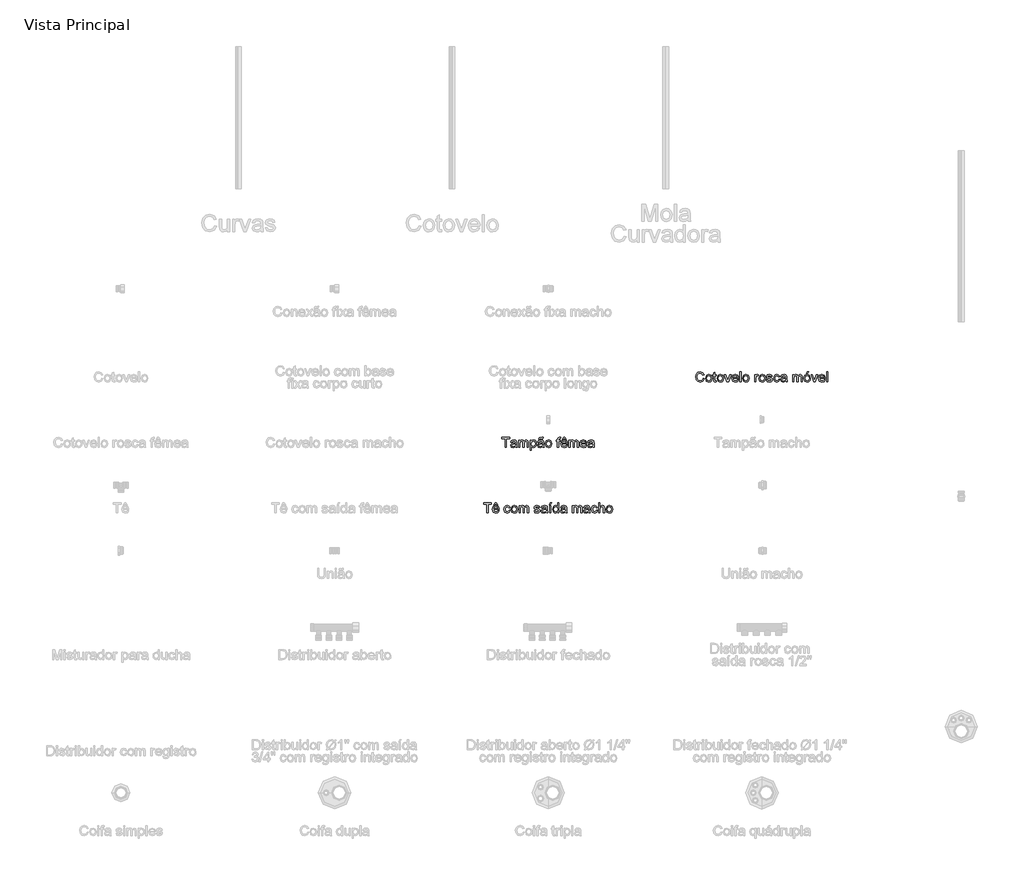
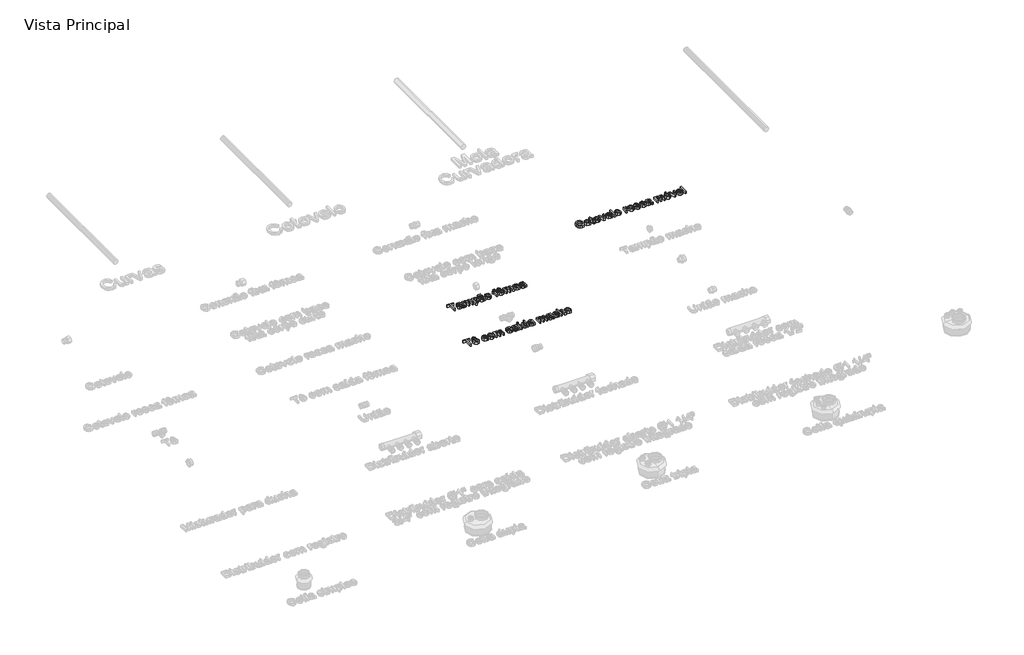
# One storey, part 11 of 12: 3 proxies.
"""IFC4 building model written with IfcOpenShell, lengths in millimetres."""

from ifc_helpers import new_model, si_unit, origin, origin_with_axes, place, context, project, spatial, polyline, outline, extrude, element, save

model = new_model("IFC4")

# Units and contexts
model_context = context("Model", 3, world=origin())
ifc_project = project(units=[si_unit("LENGTHUNIT", "METRE", prefix="MILLI")], contexts=[model_context])

# Site, building, storey
site = spatial("IfcSite", under=ifc_project)
building = spatial("IfcBuilding", under=site)
storey = spatial("IfcBuildingStorey", under=building, Name="Vista Principal", Elevation=0.0)

# Proxies
placement = place(None, origin())
element("IfcBuildingElementProxy", 1, Name="Legenda", ObjectType="Legenda", at=placement, inside=storey, context=model_context, shape_type="SweptSolid", body=[
    extrude(outline(polyline([(962.8484805, -244.518665), (967.243444, -245.6517416), (962.0330087, -254.514632), (952.8310537, -257.5662131), (943.6848942, -255.2571405), (938.3199484, -248.5702721), (936.478699, -239.1708871), (938.560298, -229.6169917), (944.4789062, -223.4236983), (952.9254768, -221.3077637), (961.7282798, -224.046032), (966.6940736, -231.7543861), (962.29911, -232.8016235), (958.6938665, -227.3980501), (952.7537985, -225.7027273), (945.878084, -227.5826042), (941.9938633, -232.6299452), (940.8736626, -239.1623032), (942.1998772, -246.7333146), (946.3287395, -251.5703497), (952.3932742, -253.1712496), (959.1187702, -250.9909356), (962.8484805, -244.518665)])), origin_with_axes(), (0.0, 0.0, 1.0), 10.0),
    extrude(outline(polyline([(971.6384076, -244.1066372), (975.4410812, -233.5055044), (983.1837709, -230.6470613), (991.4887069, -234.1278381), (994.7119663, -243.7461128), (993.2870367, -251.5660578), (989.1367147, -255.9910651), (983.1837709, -257.5662131), (974.8273314, -254.0983122), (971.6384076, -244.1066372)]), holes=[polyline([(976.0333712, -244.0980533), (978.0677586, -250.9093884), (983.1837709, -253.1712496), (988.2826153, -250.8965126), (990.3170028, -243.9607107), (988.2697395, -237.303886), (983.1837709, -235.0420248), (978.0677586, -237.2953021), (976.0333712, -244.0980533)])]), origin_with_axes(), (0.0, 0.0, 1.0), 10.0),
    extrude(outline(polyline([(1008.9955979, -253.3515117), (1009.5449684, -257.1456014), (1006.2573296, -257.5662131), (1002.5748308, -256.8365805), (1000.7378734, -254.9223679), (1000.2056708, -249.9351143), (1000.2056708, -235.5913953), (996.9094481, -235.5913953), (996.9094481, -231.1964317), (1000.2056708, -231.1964317), (1000.2056708, -224.9215911), (1004.6006344, -222.3378333), (1004.6006344, -231.1964317), (1008.9955979, -231.1964317), (1008.9955979, -235.5913953), (1004.6006344, -235.5913953), (1004.6006344, -249.8063556), (1004.8324, -252.0725087), (1008.9955979, -253.3515117)])), origin_with_axes(), (0.0, 0.0, 1.0), 10.0),
    extrude(outline(polyline([(1012.2918206, -244.1066372), (1016.0944942, -233.5055044), (1023.8371839, -230.6470613), (1032.1421199, -234.1278381), (1035.3653794, -243.7461128), (1033.9404498, -251.5660578), (1029.7901277, -255.9910651), (1023.8371839, -257.5662131), (1015.4807444, -254.0983122), (1012.2918206, -244.1066372)]), holes=[polyline([(1016.6867842, -244.0980533), (1018.7211716, -250.9093884), (1023.8371839, -253.1712496), (1028.9360283, -250.8965126), (1030.9704158, -243.9607107), (1028.9231525, -237.303886), (1023.8371839, -235.0420248), (1018.7211716, -237.2953021), (1016.6867842, -244.0980533)])]), origin_with_axes(), (0.0, 0.0, 1.0), 10.0),
    extrude(outline(polyline([(1046.6446413, -257.0168427), (1037.5628611, -231.1964317), (1042.2153421, -231.1964317), (1047.7176305, -246.6646433), (1049.3743257, -251.8664947), (1050.9966853, -246.9564964), (1056.5333094, -231.1964317), (1061.1857903, -231.1964317), (1052.215601, -257.0168427), (1046.6446413, -257.0168427)])), origin_with_axes(), (0.0, 0.0, 1.0), 10.0),
    extrude(outline(polyline([(1083.1091047, -249.3256564), (1087.4182291, -249.8750269), (1083.3880819, -255.5489935), (1075.8814498, -257.5662131), (1066.75675, -254.0854363), (1063.3832721, -244.321235), (1066.7910857, -234.235137), (1075.6325163, -230.6470613), (1084.2207214, -234.2265531), (1087.5555717, -244.2954833), (1067.7782357, -245.4800633), (1070.3061981, -251.1883656), (1075.9672889, -253.1712496), (1080.2764133, -252.2527708), (1083.1091047, -249.3256564)]), holes=[polyline([(1067.7782357, -241.0850997), (1083.1606082, -241.0850997), (1081.400906, -237.102164), (1075.6153484, -235.0420248), (1070.2031912, -236.6858442), (1067.7782357, -241.0850997)])]), origin_with_axes(), (0.0, 0.0, 1.0), 10.0),
    extrude(outline(polyline([(1091.9505353, -257.0168427), (1091.9505353, -221.8571341), (1096.3454989, -221.8571341), (1096.3454989, -257.0168427), (1091.9505353, -257.0168427)])), origin_with_axes(), (0.0, 0.0, 1.0), 10.0),
    extrude(outline(polyline([(1101.8392033, -244.1066372), (1105.6418769, -233.5055044), (1113.3845666, -230.6470613), (1121.6895027, -234.1278381), (1124.9127621, -243.7461128), (1123.4878325, -251.5660578), (1119.3375104, -255.9910651), (1113.3845666, -257.5662131), (1105.0281271, -254.0983122), (1101.8392033, -244.1066372)]), holes=[polyline([(1106.2341669, -244.0980533), (1108.2685543, -250.9093884), (1113.3845666, -253.1712496), (1118.4834111, -250.8965126), (1120.5177985, -243.9607107), (1118.4705352, -237.303886), (1113.3845666, -235.0420248), (1108.2685543, -237.2953021), (1106.2341669, -244.0980533)])]), origin_with_axes(), (0.0, 0.0, 1.0), 10.0),
    extrude(outline(polyline([(1143.5913572, -257.0168427), (1143.5913572, -231.1964317), (1147.4369504, -231.1964317), (1147.4369504, -235.0162731), (1150.1666348, -231.4968687), (1152.913487, -230.6470613), (1157.3256184, -232.0033196), (1155.8577692, -235.9433357), (1152.7675605, -235.0420248), (1150.2825176, -235.9090001), (1148.6987856, -238.3124958), (1147.9863208, -243.4456759), (1147.9863208, -257.0168427), (1143.5913572, -257.0168427)])), origin_with_axes(), (0.0, 0.0, 1.0), 10.0),
    extrude(outline(polyline([(1158.9737297, -244.1066372), (1162.7764033, -233.5055044), (1170.519093, -230.6470613), (1178.8240291, -234.1278381), (1182.0472885, -243.7461128), (1180.6223589, -251.5660578), (1176.4720368, -255.9910651), (1170.519093, -257.5662131), (1162.1626535, -254.0983122), (1158.9737297, -244.1066372)]), holes=[polyline([(1163.3686933, -244.0980533), (1165.4030807, -250.9093884), (1170.519093, -253.1712496), (1175.6179375, -250.8965126), (1177.6523249, -243.9607107), (1175.6050616, -237.303886), (1170.519093, -235.0420248), (1165.4030807, -237.2953021), (1163.3686933, -244.0980533)])]), origin_with_axes(), (0.0, 0.0, 1.0), 10.0),
    extrude(outline(polyline([(1185.3435111, -249.3256564), (1189.7384747, -248.776286), (1191.7728621, -252.038173), (1196.433927, -253.1712496), (1200.9147297, -252.1325961), (1202.373995, -249.6947647), (1200.9061458, -247.7204647), (1196.3824235, -246.4672133), (1189.7642265, -244.3169431), (1186.8757397, -241.8061485), (1185.8928816, -238.2609923), (1186.6826016, -234.9862294), (1188.8371638, -232.4840187), (1191.6312276, -231.1835558), (1195.4124414, -230.6470613), (1200.7602193, -231.5097445), (1204.1594489, -233.8445689), (1205.6702177, -237.7888771), (1201.2752541, -238.3382475), (1199.6228508, -235.913292), (1195.7557979, -235.0420248), (1191.5496804, -235.8746644), (1190.2878452, -237.8146288), (1192.4509913, -240.0636141), (1196.236497, -240.9992606), (1202.6873078, -243.0679837), (1205.6830935, -245.411392), (1206.7689585, -249.2312334), (1205.4942474, -253.4373509), (1201.8160406, -256.488932), (1196.3738396, -257.5662131), (1188.7084051, -255.4889061), (1185.3435111, -249.3256564)])), origin_with_axes(), (0.0, 0.0, 1.0), 10.0),
    extrude(outline(polyline([(1228.1944059, -247.6775451), (1232.5893695, -248.2269155), (1229.0613812, -255.0897542), (1222.0912436, -257.5662131), (1213.7605559, -254.1111881), (1210.6145517, -244.2010602), (1211.9579341, -236.900442), (1216.0524607, -232.2093335), (1222.0311562, -230.6470613), (1228.7137327, -232.7930396), (1232.0399991, -238.887618), (1227.6450355, -239.4369884), (1225.6063561, -236.1450577), (1222.0654919, -235.0420248), (1216.9709394, -237.2137549), (1215.0095152, -244.0808855), (1216.9280198, -251.0123954), (1221.9453171, -253.1712496), (1226.0870552, -251.8235752), (1228.1944059, -247.6775451)])), origin_with_axes(), (0.0, 0.0, 1.0), 10.0),
    extrude(outline(polyline([(1252.916076, -253.72062), (1248.6541631, -256.6992379), (1243.9458867, -257.5662131), (1237.5637472, -255.4803222), (1235.3362217, -250.1497121), (1236.1774452, -246.6732273), (1238.3878029, -244.1495568), (1241.4651358, -242.7074593), (1245.2678093, -242.046498), (1252.8903243, -240.5357293), (1251.7057443, -236.312444), (1246.8472494, -235.0420248), (1242.4007823, -235.8875403), (1240.2805558, -238.887618), (1235.8855922, -238.3382475), (1237.786929, -234.0462909), (1241.6153543, -231.5312043), (1247.4137876, -230.6470613), (1252.7401058, -231.4281974), (1255.7487674, -233.3896215), (1257.0964418, -236.3725314), (1257.3110396, -240.2181245), (1257.3110396, -245.6860772), (1257.5342213, -253.321468), (1258.4097805, -257.0168427), (1254.0148169, -257.0168427), (1252.916076, -253.72062)]), holes=[polyline([(1252.9032001, -245.5530266), (1245.8257637, -246.2783672), (1242.0445499, -246.990832), (1240.3320592, -248.1496603), (1239.7311853, -249.8406912), (1241.0402321, -252.2184352), (1244.8815332, -253.1712496), (1249.3280003, -252.1197202), (1252.1950273, -249.5745899), (1252.9032001, -245.5530266)])]), origin_with_axes(), (0.0, 0.0, 1.0), 10.0),
    extrude(outline(polyline([(1277.0883756, -257.0168427), (1277.0883756, -231.1964317), (1281.4833392, -231.1964317), (1281.4833392, -235.4454688), (1284.5048767, -231.9646919), (1288.8054172, -230.6470613), (1293.2089647, -231.9904437), (1295.6296282, -235.7544896), (1303.3894858, -230.6470613), (1309.1364157, -232.7715798), (1311.1493433, -239.3168136), (1311.1493433, -257.0168427), (1306.7543797, -257.0168427), (1306.7543797, -241.2052745), (1306.3466439, -237.5356516), (1304.8702108, -235.7287379), (1302.3594162, -235.0420248), (1298.0374159, -236.801727), (1296.3163413, -242.441358), (1296.3163413, -257.0168427), (1291.9213777, -257.0168427), (1291.9213777, -240.7159915), (1290.904184, -236.4583705), (1287.5693337, -235.0420248), (1284.3160306, -235.9862553), (1282.1528844, -238.7502753), (1281.4833392, -243.9950463), (1281.4833392, -257.0168427), (1277.0883756, -257.0168427)])), origin_with_axes(), (0.0, 0.0, 1.0), 10.0),
    extrude(outline(polyline([(1324.8836045, -228.4495795), (1328.1798271, -221.8571341), (1333.6735316, -221.8571341), (1328.1798271, -228.4495795), (1324.8836045, -228.4495795)])), origin_with_axes(), (0.0, 0.0, 1.0), 10.0),
    extrude(outline(polyline([(1316.6430478, -244.1066372), (1320.4457213, -233.5055044), (1328.1884111, -230.6470613), (1336.4933471, -234.1278381), (1339.7166065, -243.7461128), (1338.2916769, -251.5660578), (1334.1413549, -255.9910651), (1328.1884111, -257.5662131), (1319.8319715, -254.0983122), (1316.6430478, -244.1066372)]), holes=[polyline([(1321.0380113, -244.0980533), (1323.0723988, -250.9093884), (1328.1884111, -253.1712496), (1333.2872555, -250.8965126), (1335.3216429, -243.9607107), (1333.2743796, -237.303886), (1328.1884111, -235.0420248), (1323.0723988, -237.2953021), (1321.0380113, -244.0980533)])]), origin_with_axes(), (0.0, 0.0, 1.0), 10.0),
    extrude(outline(polyline([(1350.9958685, -257.0168427), (1341.9140883, -231.1964317), (1346.5665693, -231.1964317), (1352.0688576, -246.6646433), (1353.7255529, -251.8664947), (1355.3479125, -246.9564964), (1360.8845365, -231.1964317), (1365.5370175, -231.1964317), (1356.5668282, -257.0168427), (1350.9958685, -257.0168427)])), origin_with_axes(), (0.0, 0.0, 1.0), 10.0),
    extrude(outline(polyline([(1387.4603318, -249.3256564), (1391.7694563, -249.8750269), (1387.739309, -255.5489935), (1380.2326769, -257.5662131), (1371.1079772, -254.0854363), (1367.7344993, -244.321235), (1371.1423128, -234.235137), (1379.9837434, -230.6470613), (1388.5719486, -234.2265531), (1391.9067989, -244.2954833), (1372.1294628, -245.4800633), (1374.6574253, -251.1883656), (1380.318516, -253.1712496), (1384.6276405, -252.2527708), (1387.4603318, -249.3256564)]), holes=[polyline([(1372.1294628, -241.0850997), (1387.5118353, -241.0850997), (1385.7521331, -237.102164), (1379.9665756, -235.0420248), (1374.5544183, -236.6858442), (1372.1294628, -241.0850997)])]), origin_with_axes(), (0.0, 0.0, 1.0), 10.0),
    extrude(outline(polyline([(1396.3017625, -257.0168427), (1396.3017625, -221.8571341), (1400.696726, -221.8571341), (1400.696726, -257.0168427), (1396.3017625, -257.0168427)])), origin_with_axes(), (0.0, 0.0, 1.0), 10.0),
])
element("IfcBuildingElementProxy", 2, Name="Legenda", ObjectType="Legenda", at=placement, inside=storey, context=model_context, shape_type="SweptSolid", body=[
    extrude(outline(polyline([(268.0602103, -487.0168427), (268.0602103, -456.2520977), (256.5234309, -456.2520977), (256.5234309, -451.8571341), (283.9919532, -451.8571341), (283.9919532, -456.2520977), (272.4551739, -456.2520977), (272.4551739, -487.0168427), (268.0602103, -487.0168427)])), origin_with_axes(), (0.0, 0.0, 1.0), 10.0),
    extrude(outline(polyline([(304.8680302, -483.72062), (300.6061173, -486.6992379), (295.8978409, -487.5662131), (289.5157014, -485.4803222), (287.2881759, -480.1497121), (288.1293994, -476.6732273), (290.3397571, -474.1495568), (293.41709, -472.7074593), (297.2197635, -472.046498), (304.8422784, -470.5357293), (303.6576984, -466.312444), (298.7992035, -465.0420248), (294.3527365, -465.8875403), (292.2325099, -468.887618), (287.8375464, -468.3382475), (289.7388831, -464.0462909), (293.5673084, -461.5312043), (299.3657418, -460.6470613), (304.69206, -461.4281974), (307.7007216, -463.3896215), (309.0483959, -466.3725314), (309.2629938, -470.2181245), (309.2629938, -475.6860772), (309.4861755, -483.321468), (310.3617346, -487.0168427), (305.9667711, -487.0168427), (304.8680302, -483.72062)]), holes=[polyline([(304.8551543, -475.5530266), (297.7777179, -476.2783672), (293.9965041, -476.990832), (292.2840134, -478.1496603), (291.6831395, -479.8406912), (292.9921862, -482.2184352), (296.8334874, -483.1712496), (301.2799545, -482.1197202), (304.1469815, -479.5745899), (304.8551543, -475.5530266)])]), origin_with_axes(), (0.0, 0.0, 1.0), 10.0),
    extrude(outline(polyline([(315.3060687, -487.0168427), (315.3060687, -461.1964317), (319.7010322, -461.1964317), (319.7010322, -465.4454688), (322.7225697, -461.9646919), (327.0231102, -460.6470613), (331.4266577, -461.9904437), (333.8473212, -465.7544896), (341.6071788, -460.6470613), (347.3541087, -462.7715798), (349.3670363, -469.3168136), (349.3670363, -487.0168427), (344.9720728, -487.0168427), (344.9720728, -471.2052745), (344.5643369, -467.5356516), (343.0879038, -465.7287379), (340.5771092, -465.0420248), (336.2551089, -466.801727), (334.5340343, -472.441358), (334.5340343, -487.0168427), (330.1390707, -487.0168427), (330.1390707, -470.7159915), (329.121877, -466.4583705), (325.7870267, -465.0420248), (322.5337236, -465.9862553), (320.3705775, -468.7502753), (319.7010322, -473.9950463), (319.7010322, -487.0168427), (315.3060687, -487.0168427)])), origin_with_axes(), (0.0, 0.0, 1.0), 10.0),
    extrude(outline(polyline([(355.9594817, -496.9055107), (355.9594817, -461.1964317), (360.3544452, -461.1964317), (360.3544452, -465.5055562), (363.3931505, -461.861685), (367.496261, -460.6470613), (373.0672207, -462.3466761), (376.7067999, -467.1364997), (377.9342995, -473.9092072), (376.5479975, -481.0295632), (372.5221422, -485.8794742), (366.9640584, -487.5662131), (363.1399251, -486.4374285), (360.3544452, -483.5832774), (360.3544452, -496.9055107), (355.9594817, -496.9055107)]), holes=[polyline([(360.3544452, -474.3126511), (362.255782, -481.0081034), (366.8696354, -483.1712496), (371.5779118, -480.9308482), (373.539336, -473.9864624), (371.6251233, -467.2738423), (367.0498976, -465.0420248), (362.3845407, -467.4154768), (360.3544452, -474.3126511)])]), origin_with_axes(), (0.0, 0.0, 1.0), 10.0),
    extrude(outline(polyline([(399.3597469, -483.72062), (395.097834, -486.6992379), (390.3895576, -487.5662131), (384.0074181, -485.4803222), (381.7798926, -480.1497121), (382.6211161, -476.6732273), (384.8314738, -474.1495568), (387.9088067, -472.7074593), (391.7114802, -472.046498), (399.3339952, -470.5357293), (398.1494152, -466.312444), (393.2909203, -465.0420248), (388.8444532, -465.8875403), (386.7242267, -468.887618), (382.3292631, -468.3382475), (384.2305999, -464.0462909), (388.0590252, -461.5312043), (393.8574585, -460.6470613), (399.1837767, -461.4281974), (402.1924383, -463.3896215), (403.5401127, -466.3725314), (403.7547105, -470.2181245), (403.7547105, -475.6860772), (403.9778922, -483.321468), (404.8534514, -487.0168427), (400.4584878, -487.0168427), (399.3597469, -483.72062)]), holes=[polyline([(399.3468711, -475.5530266), (392.2694346, -476.2783672), (388.4882208, -476.990832), (386.7757301, -478.1496603), (386.1748562, -479.8406912), (387.483903, -482.2184352), (391.3252041, -483.1712496), (395.7716712, -482.1197202), (398.6386982, -479.5745899), (399.3468711, -475.5530266)])]), origin_with_axes(), (0.0, 0.0, 1.0), 10.0),
    extrude(outline(polyline([(385.6254858, -458.4495795), (386.990328, -453.651172), (390.4839807, -451.8571341), (394.0033851, -453.2734798), (395.7802551, -454.0546159), (397.1622651, -451.8571341), (401.0078583, -451.8571341), (399.6129724, -456.8014681), (396.2437864, -458.4495795), (392.7673016, -457.110489), (390.9131763, -456.2520977), (389.4710789, -458.4495795), (385.6254858, -458.4495795)])), origin_with_axes(), (0.0, 0.0, 1.0), 10.0),
    extrude(outline(polyline([(408.6990445, -474.1066372), (412.5017181, -463.5055044), (420.2444078, -460.6470613), (428.5493438, -464.1278381), (431.7726032, -473.7461128), (430.3476736, -481.5660578), (426.1973516, -485.9910651), (420.2444078, -487.5662131), (411.8879683, -484.0983122), (408.6990445, -474.1066372)]), holes=[polyline([(413.0940081, -474.0980533), (415.1283955, -480.9093884), (420.2444078, -483.1712496), (425.3432522, -480.8965126), (427.3776397, -473.9607107), (425.3303764, -467.303886), (420.2444078, -465.0420248), (415.1283955, -467.2953021), (413.0940081, -474.0980533)])]), origin_with_axes(), (0.0, 0.0, 1.0), 10.0),
    extrude(outline(polyline([(451.5499393, -487.0168427), (451.5499393, -465.5913953), (447.7043462, -465.5913953), (447.7043462, -461.1964317), (451.5499393, -461.1964317), (451.5499393, -458.595506), (452.0134706, -454.9301751), (454.2624559, -452.3120815), (458.6917551, -451.3077637), (462.7004426, -451.7884628), (462.0566491, -455.9087412), (459.5243947, -455.7027273), (456.7560827, -456.4323599), (455.9449029, -459.1534604), (455.9449029, -461.1964317), (460.8892369, -461.1964317), (460.8892369, -465.5913953), (455.9449029, -465.5913953), (455.9449029, -487.0168427), (451.5499393, -487.0168427)])), origin_with_axes(), (0.0, 0.0, 1.0), 10.0),
    extrude(outline(polyline([(482.8125513, -479.3256564), (487.1216757, -479.8750269), (483.0915284, -485.5489935), (475.5848963, -487.5662131), (466.4601966, -484.0854363), (463.0867187, -474.321235), (466.4945322, -464.235137), (475.3359628, -460.6470613), (483.924168, -464.2265531), (487.2590183, -474.2954833), (467.4816822, -475.4800633), (470.0096447, -481.1883656), (475.6707355, -483.1712496), (479.9798599, -482.2527708), (482.8125513, -479.3256564)]), holes=[polyline([(467.4816822, -471.0850997), (482.8640547, -471.0850997), (481.1043525, -467.102164), (475.318795, -465.0420248), (469.9066377, -466.6858442), (467.4816822, -471.0850997)])]), origin_with_axes(), (0.0, 0.0, 1.0), 10.0),
    extrude(outline(polyline([(475.1728685, -454.0546159), (472.7007015, -458.4495795), (468.3057379, -458.4495795), (472.9753867, -451.8571341), (477.3703503, -451.8571341), (482.5893695, -458.4495795), (478.1944059, -458.4495795), (475.1728685, -454.0546159)])), origin_with_axes(), (0.0, 0.0, 1.0), 10.0),
    extrude(outline(polyline([(491.6539819, -487.0168427), (491.6539819, -461.1964317), (496.0489454, -461.1964317), (496.0489454, -465.4454688), (499.0704829, -461.9646919), (503.3710234, -460.6470613), (507.7745709, -461.9904437), (510.1952344, -465.7544896), (517.955092, -460.6470613), (523.7020219, -462.7715798), (525.7149495, -469.3168136), (525.7149495, -487.0168427), (521.319986, -487.0168427), (521.319986, -471.2052745), (520.9122501, -467.5356516), (519.435817, -465.7287379), (516.9250224, -465.0420248), (512.6030221, -466.801727), (510.8819475, -472.441358), (510.8819475, -487.0168427), (506.4869839, -487.0168427), (506.4869839, -470.7159915), (505.4697902, -466.4583705), (502.1349399, -465.0420248), (498.8816368, -465.9862553), (496.7184907, -468.7502753), (496.0489454, -473.9950463), (496.0489454, -487.0168427), (491.6539819, -487.0168427)])), origin_with_axes(), (0.0, 0.0, 1.0), 10.0),
    extrude(outline(polyline([(550.3851161, -479.3256564), (554.6942406, -479.8750269), (550.6640933, -485.5489935), (543.1574612, -487.5662131), (534.0327614, -484.0854363), (530.6592835, -474.321235), (534.0670971, -464.235137), (542.9085277, -460.6470613), (551.4967329, -464.2265531), (554.8315832, -474.2954833), (535.0542471, -475.4800633), (537.5822096, -481.1883656), (543.2433003, -483.1712496), (547.5524248, -482.2527708), (550.3851161, -479.3256564)]), holes=[polyline([(535.0542471, -471.0850997), (550.4366196, -471.0850997), (548.6769174, -467.102164), (542.8913599, -465.0420248), (537.4792026, -466.6858442), (535.0542471, -471.0850997)])]), origin_with_axes(), (0.0, 0.0, 1.0), 10.0),
    extrude(outline(polyline([(575.7076601, -483.72062), (571.4457472, -486.6992379), (566.7374708, -487.5662131), (560.3553313, -485.4803222), (558.1278059, -480.1497121), (558.9690293, -476.6732273), (561.179387, -474.1495568), (564.2567199, -472.7074593), (568.0593935, -472.046498), (575.6819084, -470.5357293), (574.4973284, -466.312444), (569.6388335, -465.0420248), (565.1923664, -465.8875403), (563.0721399, -468.887618), (558.6771763, -468.3382475), (560.5785131, -464.0462909), (564.4069384, -461.5312043), (570.2053718, -460.6470613), (575.5316899, -461.4281974), (578.5403515, -463.3896215), (579.8880259, -466.3725314), (580.1026237, -470.2181245), (580.1026237, -475.6860772), (580.3258054, -483.321468), (581.2013646, -487.0168427), (576.806401, -487.0168427), (575.7076601, -483.72062)]), holes=[polyline([(575.6947843, -475.5530266), (568.6173478, -476.2783672), (564.836134, -476.990832), (563.1236433, -478.1496603), (562.5227694, -479.8406912), (563.8318162, -482.2184352), (567.6731174, -483.1712496), (572.1195844, -482.1197202), (574.9866114, -479.5745899), (575.6947843, -475.5530266)])]), origin_with_axes(), (0.0, 0.0, 1.0), 10.0),
])
element("IfcBuildingElementProxy", 3, Name="Legenda", ObjectType="Legenda", at=placement, inside=storey, context=model_context, shape_type="SweptSolid", body=[
    extrude(outline(polyline([(204.0585533, -717.0168427), (204.0585533, -686.2520977), (192.521774, -686.2520977), (192.521774, -681.8571341), (219.9902963, -681.8571341), (219.9902963, -686.2520977), (208.4535169, -686.2520977), (208.4535169, -717.0168427), (204.0585533, -717.0168427)])), origin_with_axes(), (0.0, 0.0, 1.0), 10.0),
    extrude(outline(polyline([(234.8232983, -684.0546159), (232.3511313, -688.4495795), (227.9561677, -688.4495795), (232.6258165, -681.8571341), (237.0207801, -681.8571341), (242.2397993, -688.4495795), (237.8448358, -688.4495795), (234.8232983, -684.0546159)])), origin_with_axes(), (0.0, 0.0, 1.0), 10.0),
    extrude(outline(polyline([(242.4629811, -709.3256564), (246.7721055, -709.8750269), (242.7419583, -715.5489935), (235.2353261, -717.5662131), (226.1106264, -714.0854363), (222.7371485, -704.321235), (226.144962, -694.235137), (234.9863927, -690.6470613), (243.5745978, -694.2265531), (246.9094481, -704.2954833), (227.1321121, -705.4800633), (229.6600745, -711.1883656), (235.3211653, -713.1712496), (239.6302897, -712.2527708), (242.4629811, -709.3256564)]), holes=[polyline([(227.1321121, -701.0850997), (242.5144846, -701.0850997), (240.7547823, -697.102164), (234.9692248, -695.0420248), (229.5570675, -696.6858442), (227.1321121, -701.0850997)])]), origin_with_axes(), (0.0, 0.0, 1.0), 10.0),
    extrude(outline(polyline([(281.5197862, -707.6775451), (285.9147498, -708.2269155), (282.3867615, -715.0897542), (275.4166239, -717.5662131), (267.0859361, -714.1111881), (263.939932, -704.2010602), (265.2833144, -696.900442), (269.377841, -692.2093335), (275.3565365, -690.6470613), (282.039113, -692.7930396), (285.3653794, -698.887618), (280.9704158, -699.4369884), (278.9317364, -696.1450577), (275.3908722, -695.0420248), (270.2963197, -697.2137549), (268.3348955, -704.0808855), (270.2534001, -711.0123954), (275.2706974, -713.1712496), (279.4124355, -711.8235752), (281.5197862, -707.6775451)])), origin_with_axes(), (0.0, 0.0, 1.0), 10.0),
    extrude(outline(polyline([(288.661602, -704.1066372), (292.4642756, -693.5055044), (300.2069653, -690.6470613), (308.5119014, -694.1278381), (311.7351608, -703.7461128), (310.3102312, -711.5660578), (306.1599091, -715.9910651), (300.2069653, -717.5662131), (291.8505258, -714.0983122), (288.661602, -704.1066372)]), holes=[polyline([(293.0565656, -704.0980533), (295.090953, -710.9093884), (300.2069653, -713.1712496), (305.3058098, -710.8965126), (307.3401972, -703.9607107), (305.2929339, -697.303886), (300.2069653, -695.0420248), (295.090953, -697.2953021), (293.0565656, -704.0980533)])]), origin_with_axes(), (0.0, 0.0, 1.0), 10.0),
    extrude(outline(polyline([(316.6794948, -717.0168427), (316.6794948, -691.1964317), (321.0744583, -691.1964317), (321.0744583, -695.4454688), (324.0959958, -691.9646919), (328.3965363, -690.6470613), (332.8000838, -691.9904437), (335.2207473, -695.7544896), (342.9806049, -690.6470613), (348.7275348, -692.7715798), (350.7404624, -699.3168136), (350.7404624, -717.0168427), (346.3454989, -717.0168427), (346.3454989, -701.2052745), (345.937763, -697.5356516), (344.4613299, -695.7287379), (341.9505353, -695.0420248), (337.628535, -696.801727), (335.9074604, -702.441358), (335.9074604, -717.0168427), (331.5124968, -717.0168427), (331.5124968, -700.7159915), (330.4953031, -696.4583705), (327.1604528, -695.0420248), (323.9071497, -695.9862553), (321.7440036, -698.7502753), (321.0744583, -703.9950463), (321.0744583, -717.0168427), (316.6794948, -717.0168427)])), origin_with_axes(), (0.0, 0.0, 1.0), 10.0),
    extrude(outline(polyline([(369.4190576, -709.3256564), (373.8140212, -708.776286), (375.8484086, -712.038173), (380.5094735, -713.1712496), (384.9902762, -712.1325961), (386.4495414, -709.6947647), (384.9816923, -707.7204647), (380.45797, -706.4672133), (373.8397729, -704.3169431), (370.9512861, -701.8061485), (369.9684281, -698.2609923), (370.7581481, -694.9862294), (372.9127103, -692.4840187), (375.706774, -691.1835558), (379.4879878, -690.6470613), (384.8357658, -691.5097445), (388.2349954, -693.8445689), (389.7457641, -697.7888771), (385.3508005, -698.3382475), (383.6983973, -695.913292), (379.8313443, -695.0420248), (375.6252269, -695.8746644), (374.3633916, -697.8146288), (376.5265378, -700.0636141), (380.3120435, -700.9992606), (386.7628543, -703.0679837), (389.75864, -705.411392), (390.844505, -709.2312334), (389.5697939, -713.4373509), (385.8915871, -716.488932), (380.4493861, -717.5662131), (372.7839516, -715.4889061), (369.4190576, -709.3256564)])), origin_with_axes(), (0.0, 0.0, 1.0), 10.0),
    extrude(outline(polyline([(412.2699524, -713.72062), (408.0080395, -716.6992379), (403.2997631, -717.5662131), (396.9176236, -715.4803222), (394.6900981, -710.1497121), (395.5313216, -706.6732273), (397.7416793, -704.1495568), (400.8190122, -702.7074593), (404.6216857, -702.046498), (412.2442007, -700.5357293), (411.0596206, -696.312444), (406.2011258, -695.0420248), (401.7546587, -695.8875403), (399.6344321, -698.887618), (395.2394686, -698.3382475), (397.1408054, -694.0462909), (400.9692307, -691.5312043), (406.767664, -690.6470613), (412.0939822, -691.4281974), (415.1026438, -693.3896215), (416.4503181, -696.3725314), (416.664916, -700.2181245), (416.664916, -705.6860772), (416.8880977, -713.321468), (417.7636569, -717.0168427), (413.3686933, -717.0168427), (412.2699524, -713.72062)]), holes=[polyline([(412.2570765, -705.5530266), (405.1796401, -706.2783672), (401.3984263, -706.990832), (399.6859356, -708.1496603), (399.0850617, -709.8406912), (400.3941085, -712.2184352), (404.2354096, -713.1712496), (408.6818767, -712.1197202), (411.5489037, -709.5745899), (412.2570765, -705.5530266)])]), origin_with_axes(), (0.0, 0.0, 1.0), 10.0),
    extrude(outline(polyline([(422.7079909, -688.4495795), (426.0042136, -681.8571341), (431.497918, -681.8571341), (426.0042136, -688.4495795), (422.7079909, -688.4495795)])), origin_with_axes(), (0.0, 0.0, 1.0), 10.0),
    extrude(outline(polyline([(423.8067318, -717.0168427), (423.8067318, -691.1964317), (428.2016953, -691.1964317), (428.2016953, -717.0168427), (423.8067318, -717.0168427)])), origin_with_axes(), (0.0, 0.0, 1.0), 10.0),
    extrude(outline(polyline([(452.373995, -717.0168427), (452.373995, -712.8708126), (445.446777, -717.5662131), (440.004576, -715.8665983), (436.1589829, -711.1239863), (434.7941407, -704.1323889), (436.051684, -697.1364997), (439.8200219, -692.3209243), (445.4296092, -690.6470613), (449.4812162, -691.8445172), (452.373995, -694.9561857), (452.373995, -681.8571341), (456.7689585, -681.8571341), (456.7689585, -717.0168427), (452.373995, -717.0168427)]), holes=[polyline([(439.1891043, -704.1152211), (441.1719882, -710.9179723), (445.8502209, -713.1712496), (450.4726582, -711.0209793), (452.373995, -704.4499937), (450.4383225, -697.3167618), (445.6699587, -695.0420248), (441.0432295, -697.2266308), (439.1891043, -704.1152211)])]), origin_with_axes(), (0.0, 0.0, 1.0), 10.0),
    extrude(outline(polyline([(479.8425173, -713.72062), (475.5806044, -716.6992379), (470.872328, -717.5662131), (464.4901885, -715.4803222), (462.262663, -710.1497121), (463.1038865, -706.6732273), (465.3142442, -704.1495568), (468.391577, -702.7074593), (472.1942506, -702.046498), (479.8167655, -700.5357293), (478.6321855, -696.312444), (473.7736906, -695.0420248), (469.3272236, -695.8875403), (467.206997, -698.887618), (462.8120335, -698.3382475), (464.7133702, -694.0462909), (468.5417955, -691.5312043), (474.3402289, -690.6470613), (479.6665471, -691.4281974), (482.6752086, -693.3896215), (484.022883, -696.3725314), (484.2374808, -700.2181245), (484.2374808, -705.6860772), (484.4606626, -713.321468), (485.3362217, -717.0168427), (480.9412582, -717.0168427), (479.8425173, -713.72062)]), holes=[polyline([(479.8296414, -705.5530266), (472.752205, -706.2783672), (468.9709912, -706.990832), (467.2585005, -708.1496603), (466.6576266, -709.8406912), (467.9666733, -712.2184352), (471.8079745, -713.1712496), (476.2544416, -712.1197202), (479.1214686, -709.5745899), (479.8296414, -705.5530266)])]), origin_with_axes(), (0.0, 0.0, 1.0), 10.0),
    extrude(outline(polyline([(504.0148169, -717.0168427), (504.0148169, -691.1964317), (508.4097805, -691.1964317), (508.4097805, -695.4454688), (511.4313179, -691.9646919), (515.7318585, -690.6470613), (520.1354059, -691.9904437), (522.5560695, -695.7544896), (530.315927, -690.6470613), (536.0628569, -692.7715798), (538.0757846, -699.3168136), (538.0757846, -717.0168427), (533.680821, -717.0168427), (533.680821, -701.2052745), (533.2730851, -697.5356516), (531.796652, -695.7287379), (529.2858574, -695.0420248), (524.9638571, -696.801727), (523.2427825, -702.441358), (523.2427825, -717.0168427), (518.847819, -717.0168427), (518.847819, -700.7159915), (517.8306252, -696.4583705), (514.495775, -695.0420248), (511.2424718, -695.9862553), (509.0793257, -698.7502753), (508.4097805, -703.9950463), (508.4097805, -717.0168427), (504.0148169, -717.0168427)])), origin_with_axes(), (0.0, 0.0, 1.0), 10.0),
    extrude(outline(polyline([(561.1493433, -713.72062), (556.8874304, -716.6992379), (552.179154, -717.5662131), (545.7970145, -715.4803222), (543.569489, -710.1497121), (544.4107125, -706.6732273), (546.6210702, -704.1495568), (549.6984031, -702.7074593), (553.5010766, -702.046498), (561.1235916, -700.5357293), (559.9390115, -696.312444), (555.0805167, -695.0420248), (550.6340496, -695.8875403), (548.513823, -698.887618), (544.1188595, -698.3382475), (546.0201963, -694.0462909), (549.8486216, -691.5312043), (555.6470549, -690.6470613), (560.9733731, -691.4281974), (563.9820347, -693.3896215), (565.329709, -696.3725314), (565.5443069, -700.2181245), (565.5443069, -705.6860772), (565.7674886, -713.321468), (566.6430478, -717.0168427), (562.2480842, -717.0168427), (561.1493433, -713.72062)]), holes=[polyline([(561.1364674, -705.5530266), (554.059031, -706.2783672), (550.2778172, -706.990832), (548.5653265, -708.1496603), (547.9644526, -709.8406912), (549.2734994, -712.2184352), (553.1148005, -713.1712496), (557.5612676, -712.1197202), (560.4282946, -709.5745899), (561.1364674, -705.5530266)])]), origin_with_axes(), (0.0, 0.0, 1.0), 10.0),
    extrude(outline(polyline([(588.0684952, -707.6775451), (592.4634587, -708.2269155), (588.9354704, -715.0897542), (581.9653329, -717.5662131), (573.6346451, -714.1111881), (570.4886409, -704.2010602), (571.8320233, -696.900442), (575.9265499, -692.2093335), (581.9052455, -690.6470613), (588.5878219, -692.7930396), (591.9140883, -698.887618), (587.5191247, -699.4369884), (585.4804453, -696.1450577), (581.9395811, -695.0420248), (576.8450286, -697.2137549), (574.8836045, -704.0808855), (576.8021091, -711.0123954), (581.8194063, -713.1712496), (585.9611445, -711.8235752), (588.0684952, -707.6775451)])), origin_with_axes(), (0.0, 0.0, 1.0), 10.0),
    extrude(outline(polyline([(596.3090519, -717.0168427), (596.3090519, -681.8571341), (600.7040154, -681.8571341), (600.7040154, -694.7845074), (608.3522821, -690.6470613), (613.2880322, -691.7758459), (616.2838179, -694.8960983), (617.1851288, -700.6730719), (617.1851288, -717.0168427), (612.7901652, -717.0168427), (612.7901652, -701.1280193), (611.3909874, -696.4927062), (607.4252195, -695.0420248), (603.8242679, -696.0205909), (601.4207722, -698.6730201), (600.7040154, -703.2997494), (600.7040154, -717.0168427), (596.3090519, -717.0168427)])), origin_with_axes(), (0.0, 0.0, 1.0), 10.0),
    extrude(outline(polyline([(622.1294628, -704.1066372), (625.9321364, -693.5055044), (633.6748261, -690.6470613), (641.9797622, -694.1278381), (645.2030216, -703.7461128), (643.778092, -711.5660578), (639.6277699, -715.9910651), (633.6748261, -717.5662131), (625.3183866, -714.0983122), (622.1294628, -704.1066372)]), holes=[polyline([(626.5244264, -704.0980533), (628.5588138, -710.9093884), (633.6748261, -713.1712496), (638.7736706, -710.8965126), (640.808058, -703.9607107), (638.7607947, -697.303886), (633.6748261, -695.0420248), (628.5588138, -697.2953021), (626.5244264, -704.0980533)])]), origin_with_axes(), (0.0, 0.0, 1.0), 10.0),
])

save(model, "model.ifc")
